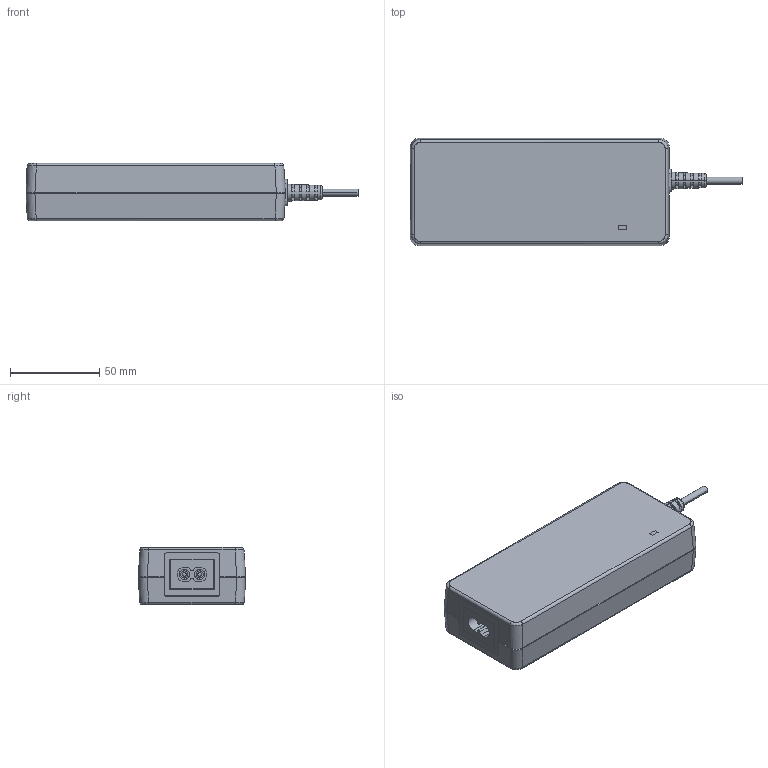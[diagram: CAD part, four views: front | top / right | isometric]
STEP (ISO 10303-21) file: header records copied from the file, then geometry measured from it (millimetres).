
FILE_DESCRIPTION(('Creo Elements/Direct Modeling STEP Export'),'2;1');
FILE_NAME('GSM90B.stp','2023-07-12T10:27:58',(''),(''),'PTC Creo Elements/Direct Modeling STEP processor for AP214 (Solid Model)','PTC Creo Elements/Direct Modeling 19.0E 27-Jun-2016 (C) Parametric Technology GmbH','');
FILE_SCHEMA(('AUTOMOTIVE_DESIGN { 1 0 10303 214 1 1 1 1 }'));
Length unit declared in the file: millimetre
Products named in the file (39): g; pin.1.1; p1; a3; HS1; PCB; a1; a2; ÛM¤ß; clip.1; MOS15.5x10.1.1.1.1.1.1.1.2; MSBR.1.1; MOS15.5x10.1.1.1.1.1.1.1.1.1; p2; LED; KK; aLL; ÊU£\; a4; ÊW£\; LENS; BOt; p1.1.1.1.1.1; a5; GS120A-T; CASE; SHS-010; HS-399; HS-398; HS-120B; GSM120BHS; SO-222-TC-020-BODY_5_PRT.PRT; GSM120A-PCB; 装配1; MOS; 零件; GSM120B
Assembly tree (41 placements, depth 4):
  a5
    a5
      p1.1.1.1.1.1  x2
      BOt
    a1
      LENS
      ÊW£\
    a4
      ÊU£\
    aLL
      KK
      LED
      p2
    MOS15.5x10.1.1.1.1.1.1.1.1.1  x2
    MSBR.1.1
    MOS15.5x10.1.1.1.1.1.1.1.2  x2
    clip.1
    ÛM¤ß
    a2
      a1
        PCB
      pin.1.1
      HS1
    a3
      p1
      pin.1.1
    g
  GSM120B
    零件
      MOS
    装配1
      GSM120A-PCB
      SO-222-TC-020-BODY_5_PRT.PRT
    GSM120BHS
      HS-120B
      HS-398
      HS-399
      SHS-010
    CASE
      GS120A-T
Bounding box: 185.71 x 60.01 x 32 mm (x, y, z)
Volume: 120711.6 mm3; surface area: 145938.9 mm2
Topology: 27 solids, 28 shells, 1227 faces, 3176 edges, 2097 vertices
Faces by surface type: plane 783, cylinder 396, cone 30, torus 10, bspline 8
Entity records: 35468 total; most frequent: CARTESIAN_POINT 7004, ORIENTED_EDGE 5856, DIRECTION 5416, EDGE_CURVE 2910, VECTOR 2012, LINE 2012, VERTEX_POINT 1921, AXIS2_PLACEMENT_3D 1702
